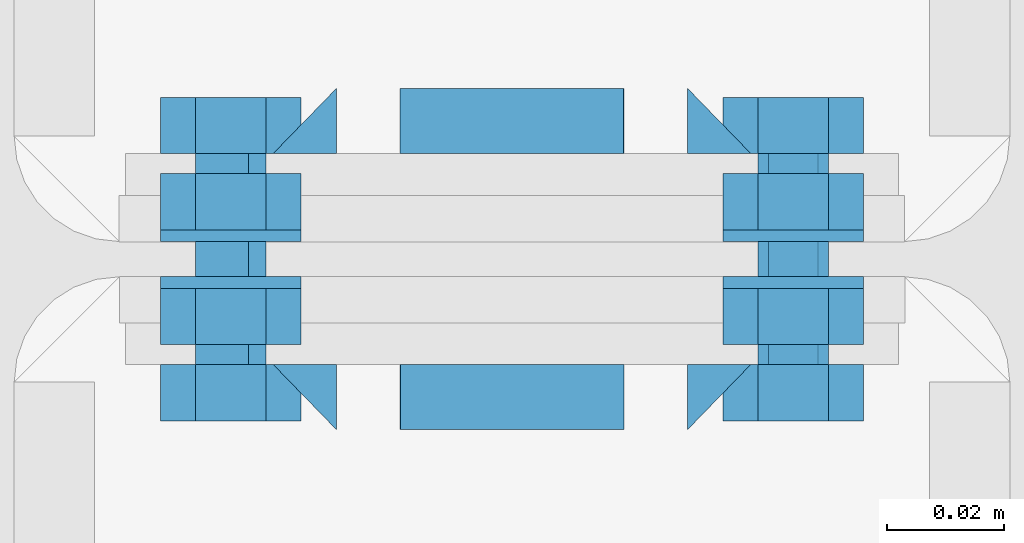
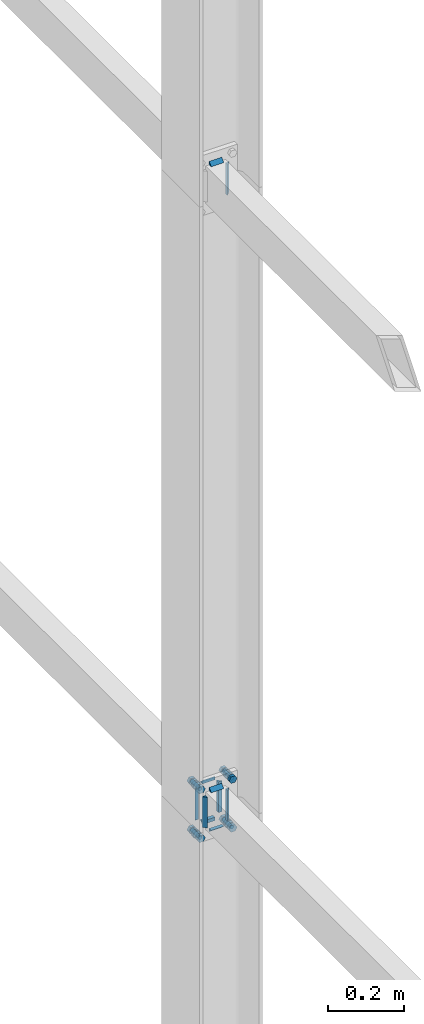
# One storey, part 163 of 251: 32 mechanical fasteners, 18 fasteners.
"""IFC4 building model written with IfcOpenShell, lengths in metres."""

from ifc_helpers import new_model, si_unit, frame, origin_with_axes, place, context, project, spatial, polyline, outline, extrude, type_object, element, save


model = new_model("IFC4")

# Units and contexts
model_context = context("Model", 3, precision=1e-05, world=origin_with_axes())
ifc_project = project(units=[si_unit("LENGTHUNIT", "METRE"), si_unit("AREAUNIT", "SQUARE_METRE"), si_unit("VOLUMEUNIT", "CUBIC_METRE"), si_unit("MASSUNIT", "GRAM", prefix="KILO"), si_unit("TIMEUNIT", "SECOND"), si_unit("PLANEANGLEUNIT", "RADIAN"), si_unit("SOLIDANGLEUNIT", "STERADIAN"), si_unit("THERMODYNAMICTEMPERATUREUNIT", "DEGREE_CELSIUS")], contexts=[model_context])

# Site, building, storey
placement_1 = place(None, origin_with_axes())
site = spatial("IfcSite", under=ifc_project, at=placement_1, Name="Italia", CompositionType="ELEMENT")
building = spatial("IfcBuilding", under=site, at=placement_1, Name="Deposito", CompositionType="ELEMENT")
storey = spatial("IfcBuildingStorey", under=building, at=placement_1, Name="Storey 0", CompositionType="ELEMENT", Elevation=0.0)

# Fasteners
fastener_type_1 = type_object("IfcFastenerType", Name="Collegamenti -001_-002 -002_-001 -002_-003 -003_-002 -003_-004 -004_-003 -004_-008 -008_-004 -009_-010 -010_-009 -010_-011 -011_-010 -011_-012 -012_-011 -012_-016 -016_-012", PredefinedType="WELD")
placement_2 = place(placement_1, origin_with_axes())
fastener_1_placement = place(placement_2, origin_with_axes())
element("IfcFastener", 1, at=fastener_1_placement, inside=storey, type_object=fastener_type_1, Name="Collegamenti -001_-002 -002_-001 -002_-003 -003_-002 -003_-004 -004_-003 -004_-008 -008_-004 -009_-010 -010_-009 -010_-011 -011_-010 -011_-012 -012_-011 -012_-016 -016_-012", context=model_context, shape_type="SweptSolid", body=[
    extrude(outline(polyline([(0.0, 0.0), (0.0111732, -0.0108382), (0.0, -0.0108382), (0.0, 0.0)])), frame((20.0191, 9.98205, 1.07079), z_axis=(-1.0, 0.0, 0.0), x_axis=(0.0, -1.0, 0.0)), (0.0, 0.0, 1.0), 0.0381012),
])
fastener_type_2 = type_object("IfcFastenerType", Name="Collegamenti -001_-002 -002_-001 -002_-003 -003_-002 -003_-004 -004_-003 -004_-008 -008_-004 -009_-010 -010_-009 -010_-011 -011_-010 -011_-012 -012_-011 -012_-016 -016_-012", PredefinedType="WELD")
fastener_2_placement = place(placement_2, origin_with_axes())
element("IfcFastener", 2, at=fastener_2_placement, inside=storey, type_object=fastener_type_2, Name="Collegamenti -001_-002 -002_-001 -002_-003 -003_-002 -003_-004 -004_-003 -004_-008 -008_-004 -009_-010 -010_-009 -010_-011 -011_-010 -011_-012 -012_-011 -012_-016 -016_-012", context=model_context, shape_type="SweptSolid", body=[
    extrude(outline(polyline([(0.0, 0.0), (-0.0111732, 0.0108376), (0.0, 0.0108376), (0.0, 0.0)])), frame((20.0408, 9.98205, 0.95095), z_axis=(0.0, 0.0, 1.0), x_axis=(0.0, 1.0, 0.0)), (0.0, 0.0, 1.0), 0.0980999),
])
fastener_type_3 = type_object("IfcFastenerType", Name="Collegamenti -001_-002 -002_-001 -002_-003 -003_-002 -003_-004 -004_-003 -004_-008 -008_-004 -009_-010 -010_-009 -010_-011 -011_-010 -011_-012 -012_-011 -012_-016 -016_-012", PredefinedType="WELD")
fastener_3_placement = place(placement_2, origin_with_axes())
element("IfcFastener", 3, at=fastener_3_placement, inside=storey, type_object=fastener_type_3, Name="Collegamenti -001_-002 -002_-001 -002_-003 -003_-002 -003_-004 -004_-003 -004_-008 -008_-004 -009_-010 -010_-009 -010_-011 -011_-010 -011_-012 -012_-011 -012_-016 -016_-012", context=model_context, shape_type="SweptSolid", body=[
    extrude(outline(polyline([(0.0, 0.0), (-0.0111732, 0.0108376), (0.0, 0.0108376), (0.0, 0.0)])), frame((19.9592, 9.98205, 1.04905), z_axis=(0.0, 0.0, -1.0), x_axis=(0.0, 1.0, 0.0)), (0.0, 0.0, 1.0), 0.0980999),
])
fastener_type_4 = type_object("IfcFastenerType", Name="Collegamenti -001_-002 -002_-001 -002_-003 -003_-002 -003_-004 -004_-003 -004_-008 -008_-004 -009_-010 -010_-009 -010_-011 -011_-010 -011_-012 -012_-011 -012_-016 -016_-012", PredefinedType="WELD")
fastener_4_placement = place(placement_2, origin_with_axes())
element("IfcFastener", 4, at=fastener_4_placement, inside=storey, type_object=fastener_type_4, Name="Collegamenti -001_-002 -002_-001 -002_-003 -003_-002 -003_-004 -004_-003 -004_-008 -008_-004 -009_-010 -010_-009 -010_-011 -011_-010 -011_-012 -012_-011 -012_-016 -016_-012", context=model_context, shape_type="SweptSolid", body=[
    extrude(outline(polyline([(0.0, 0.0), (-0.0111732, 0.0108382), (0.0, 0.0108382), (0.0, 0.0)])), frame((19.9809, 9.98205, 0.929212), z_axis=(1.0, 0.0, 0.0), x_axis=(0.0, 1.0, 0.0)), (0.0, 0.0, 1.0), 0.0381012),
])
fastener_type_5 = type_object("IfcFastenerType", Name="Collegamenti -001_-002 -002_-001 -002_-003 -003_-002 -003_-004 -004_-003 -004_-008 -008_-004 -009_-010 -010_-009 -010_-011 -011_-010 -011_-012 -012_-011 -012_-016 -016_-012", PredefinedType="WELD")
fastener_5_placement = place(placement_2, origin_with_axes())
element("IfcFastener", 5, at=fastener_5_placement, inside=storey, type_object=fastener_type_5, Name="Collegamenti -001_-002 -002_-001 -002_-003 -003_-002 -003_-004 -004_-003 -004_-008 -008_-004 -009_-010 -010_-009 -010_-011 -011_-010 -011_-012 -012_-011 -012_-016 -016_-012", context=model_context, shape_type="SweptSolid", body=[
    extrude(outline(polyline([(0.0, 0.0), (0.0111732, -0.0108382), (0.0, -0.0108382), (0.0, 0.0)])), frame((20.0191, 9.98205, 1.07079), z_axis=(-1.0, 0.0, 0.0), x_axis=(0.0, -1.0, 0.0)), (0.0, 0.0, 1.0), 0.0381012),
])
fastener_type_6 = type_object("IfcFastenerType", Name="Collegamenti -001_-002 -002_-001 -002_-003 -003_-002 -003_-004 -004_-003 -004_-008 -008_-004 -009_-010 -010_-009 -010_-011 -011_-010 -011_-012 -012_-011 -012_-016 -016_-012", PredefinedType="WELD")
fastener_6_placement = place(placement_2, origin_with_axes())
element("IfcFastener", 6, at=fastener_6_placement, inside=storey, type_object=fastener_type_6, Name="Collegamenti -001_-002 -002_-001 -002_-003 -003_-002 -003_-004 -004_-003 -004_-008 -008_-004 -009_-010 -010_-009 -010_-011 -011_-010 -011_-012 -012_-011 -012_-016 -016_-012", context=model_context, shape_type="SweptSolid", body=[
    extrude(outline(polyline([(0.0, 0.0), (-0.0111732, 0.0108376), (0.0, 0.0108376), (0.0, 0.0)])), frame((20.0408, 9.98205, 0.95095), z_axis=(0.0, 0.0, 1.0), x_axis=(0.0, 1.0, 0.0)), (0.0, 0.0, 1.0), 0.0980999),
])
fastener_type_7 = type_object("IfcFastenerType", Name="Collegamenti -001_-002 -002_-001 -002_-003 -003_-002 -003_-004 -004_-003 -004_-008 -008_-004 -009_-010 -010_-009 -010_-011 -011_-010 -011_-012 -012_-011 -012_-016 -016_-012", PredefinedType="WELD")
fastener_7_placement = place(placement_2, origin_with_axes())
element("IfcFastener", 7, at=fastener_7_placement, inside=storey, type_object=fastener_type_7, Name="Collegamenti -001_-002 -002_-001 -002_-003 -003_-002 -003_-004 -004_-003 -004_-008 -008_-004 -009_-010 -010_-009 -010_-011 -011_-010 -011_-012 -012_-011 -012_-016 -016_-012", context=model_context, shape_type="SweptSolid", body=[
    extrude(outline(polyline([(0.0, 0.0), (-0.0111732, 0.0108376), (0.0, 0.0108376), (0.0, 0.0)])), frame((19.9592, 9.98205, 1.04905), z_axis=(0.0, 0.0, -1.0), x_axis=(0.0, 1.0, 0.0)), (0.0, 0.0, 1.0), 0.0980999),
])
fastener_type_8 = type_object("IfcFastenerType", Name="Collegamenti -001_-002 -002_-001 -002_-003 -003_-002 -003_-004 -004_-003 -004_-008 -008_-004 -009_-010 -010_-009 -010_-011 -011_-010 -011_-012 -012_-011 -012_-016 -016_-012", PredefinedType="WELD")
fastener_8_placement = place(placement_2, origin_with_axes())
element("IfcFastener", 8, at=fastener_8_placement, inside=storey, type_object=fastener_type_8, Name="Collegamenti -001_-002 -002_-001 -002_-003 -003_-002 -003_-004 -004_-003 -004_-008 -008_-004 -009_-010 -010_-009 -010_-011 -011_-010 -011_-012 -012_-011 -012_-016 -016_-012", context=model_context, shape_type="SweptSolid", body=[
    extrude(outline(polyline([(0.0, 0.0), (-0.0111732, 0.0108382), (0.0, 0.0108382), (0.0, 0.0)])), frame((19.9809, 9.98205, 0.929212), z_axis=(1.0, 0.0, 0.0), x_axis=(0.0, 1.0, 0.0)), (0.0, 0.0, 1.0), 0.0381012),
])

# Mechanical fasteners
mechanical_fastener_type_1 = type_object("IfcMechanicalFastenerType", Name="Collegamenti -001_-002 -002_-001 -002_-003 -003_-002 -003_-004 -004_-003 -004_-008 -008_-004 -009_-010 -010_-009 -010_-011 -011_-010 -011_-012 -012_-011 -012_-016 -016_-012", PredefinedType="BOLT")
mechanical_fastener_1_placement = place(placement_2, origin_with_axes())
element("IfcMechanicalFastener", 9, at=mechanical_fastener_1_placement, inside=storey, type_object=mechanical_fastener_type_1, Name="Collegamenti -001_-002 -002_-001 -002_-003 -003_-002 -003_-004 -004_-003 -004_-008 -008_-004 -009_-010 -010_-009 -010_-011 -011_-010 -011_-012 -012_-011 -012_-016 -016_-012", NominalDiameter=0.0119993, context=model_context, shape_type="SweptSolid", body=[
    extrude(outline(polyline([(0.0, 0.0), (-0.012001, 0.0), (-0.0179996, 0.0103923), (-0.012001, 0.0207846), (0.0, 0.0207846), (0.00600052, 0.0103923), (0.0, 0.0)])), frame((19.958, 9.982, 0.911608), z_axis=(0.0, -1.0, 0.0), x_axis=(1.0, 0.0, 0.0)), (0.0, 0.0, 1.0), 0.00960064),
])
mechanical_fastener_type_2 = type_object("IfcMechanicalFastenerType", Name="Collegamenti -001_-002 -002_-001 -002_-003 -003_-002 -003_-004 -004_-003 -004_-008 -008_-004 -009_-010 -010_-009 -010_-011 -011_-010 -011_-012 -012_-011 -012_-016 -016_-012", PredefinedType="BOLT")
mechanical_fastener_2_placement = place(placement_2, origin_with_axes())
element("IfcMechanicalFastener", 10, at=mechanical_fastener_2_placement, inside=storey, type_object=mechanical_fastener_type_2, Name="Collegamenti -001_-002 -002_-001 -002_-003 -003_-002 -003_-004 -004_-003 -004_-008 -008_-004 -009_-010 -010_-009 -010_-011 -011_-010 -011_-012 -012_-011 -012_-016 -016_-012", NominalDiameter=0.012, context=model_context, shape_type="SweptSolid", body=[
    extrude(outline(polyline([(0.0, 0.0), (-0.000204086, -0.00155294), (-0.000804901, -0.00300002), (-0.00175858, -0.00424266), (-0.00300026, -0.00519615), (-0.00444794, -0.00579554), (-0.00600052, -0.00599998), (-0.0075531, -0.00579554), (-0.00900078, -0.00519615), (-0.0102425, -0.00424266), (-0.0111961, -0.00300002), (-0.011797, -0.00155294), (-0.012001, 0.0), (-0.011797, 0.00155294), (-0.0111961, 0.00300002), (-0.0102425, 0.00424266), (-0.00900078, 0.00519615), (-0.0075531, 0.00579554), (-0.00600052, 0.00599998), (-0.00444794, 0.00579554), (-0.00300026, 0.00519615), (-0.00175858, 0.00424266), (-0.000804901, 0.00300002), (-0.000204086, 0.00155294), (0.0, 0.0)])), frame((19.958, 10.021, 0.922), z_axis=(0.0, -1.0, 0.0), x_axis=(1.0, 0.0, 0.0)), (0.0, 0.0, 1.0), 0.0389996),
])
mechanical_fastener_type_3 = type_object("IfcMechanicalFastenerType", Name="Collegamenti -001_-002 -002_-001 -002_-003 -003_-002 -003_-004 -004_-003 -004_-008 -008_-004 -009_-010 -010_-009 -010_-011 -011_-010 -011_-012 -012_-011 -012_-016 -016_-012", PredefinedType="BOLT")
mechanical_fastener_3_placement = place(placement_2, origin_with_axes())
element("IfcMechanicalFastener", 11, at=mechanical_fastener_3_placement, inside=storey, type_object=mechanical_fastener_type_3, Name="Collegamenti -001_-002 -002_-001 -002_-003 -003_-002 -003_-004 -004_-003 -004_-008 -008_-004 -009_-010 -010_-009 -010_-011 -011_-010 -011_-012 -012_-011 -012_-016 -016_-012", NominalDiameter=0.0119993, context=model_context, shape_type="SweptSolid", body=[
    extrude(outline(polyline([(0.0, 0.0), (-0.012001, 0.0), (-0.0179996, 0.0103923), (-0.012001, 0.0207846), (0.0, 0.0207846), (0.00600052, 0.0103923), (0.0, 0.0)])), frame((19.958, 10.0146, 0.911608), z_axis=(0.0, -1.0, 0.0), x_axis=(1.0, 0.0, 0.0)), (0.0, 0.0, 1.0), 0.00959969),
])
mechanical_fastener_type_4 = type_object("IfcMechanicalFastenerType", Name="Collegamenti -001_-002 -002_-001 -002_-003 -003_-002 -003_-004 -004_-003 -004_-008 -008_-004 -009_-010 -010_-009 -010_-011 -011_-010 -011_-012 -012_-011 -012_-016 -016_-012", PredefinedType="BOLT")
mechanical_fastener_4_placement = place(placement_2, origin_with_axes())
element("IfcMechanicalFastener", 12, at=mechanical_fastener_4_placement, inside=storey, type_object=mechanical_fastener_type_4, Name="Collegamenti -001_-002 -002_-001 -002_-003 -003_-002 -003_-004 -004_-003 -004_-008 -008_-004 -009_-010 -010_-009 -010_-011 -011_-010 -011_-012 -012_-011 -012_-016 -016_-012", NominalDiameter=0.024, context=model_context, shape_type="SweptSolid", body=[
    extrude(outline(polyline([(0.0, 0.0), (-0.000408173, -0.00310582), (-0.00160599, -0.00599998), (-0.00351334, -0.00848526), (-0.00599861, -0.0103923), (-0.00889397, -0.0115911), (-0.0119991, -0.012), (-0.0151043, -0.0115911), (-0.0179996, -0.0103923), (-0.0204849, -0.00848526), (-0.0223923, -0.00599998), (-0.0235901, -0.00310582), (-0.0239983, 0.0), (-0.0235901, 0.00310582), (-0.0223923, 0.00599998), (-0.0204849, 0.00848526), (-0.0179996, 0.0103923), (-0.0151043, 0.0115911), (-0.0119991, 0.012), (-0.00889397, 0.0115911), (-0.00599861, 0.0103923), (-0.00351334, 0.00848526), (-0.00160599, 0.00599998), (-0.000408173, 0.00310582), (0.0, 0.0)])), frame((19.964, 10.005, 0.922), z_axis=(0.0, -1.0, 0.0), x_axis=(1.0, 0.0, 0.0)), (0.0, 0.0, 1.0), 0.00199986),
])
mechanical_fastener_type_5 = type_object("IfcMechanicalFastenerType", Name="Collegamenti -001_-002 -002_-001 -002_-003 -003_-002 -003_-004 -004_-003 -004_-008 -008_-004 -009_-010 -010_-009 -010_-011 -011_-010 -011_-012 -012_-011 -012_-016 -016_-012", PredefinedType="BOLT")
mechanical_fastener_5_placement = place(placement_2, origin_with_axes())
element("IfcMechanicalFastener", 13, at=mechanical_fastener_5_placement, inside=storey, type_object=mechanical_fastener_type_5, Name="Collegamenti -001_-002 -002_-001 -002_-003 -003_-002 -003_-004 -004_-003 -004_-008 -008_-004 -009_-010 -010_-009 -010_-011 -011_-010 -011_-012 -012_-011 -012_-016 -016_-012", NominalDiameter=0.0119993, context=model_context, shape_type="SweptSolid", body=[
    extrude(outline(polyline([(0.0, 0.0), (-0.012001, 0.0), (-0.0180016, 0.0103923), (-0.012001, 0.0207846), (0.0, 0.0207846), (0.00599861, 0.0103923), (0.0, 0.0)])), frame((20.054, 9.982, 0.911608), z_axis=(0.0, -1.0, 0.0), x_axis=(1.0, 0.0, 0.0)), (0.0, 0.0, 1.0), 0.00960064),
])
mechanical_fastener_type_6 = type_object("IfcMechanicalFastenerType", Name="Collegamenti -001_-002 -002_-001 -002_-003 -003_-002 -003_-004 -004_-003 -004_-008 -008_-004 -009_-010 -010_-009 -010_-011 -011_-010 -011_-012 -012_-011 -012_-016 -016_-012", PredefinedType="BOLT")
mechanical_fastener_6_placement = place(placement_2, origin_with_axes())
element("IfcMechanicalFastener", 14, at=mechanical_fastener_6_placement, inside=storey, type_object=mechanical_fastener_type_6, Name="Collegamenti -001_-002 -002_-001 -002_-003 -003_-002 -003_-004 -004_-003 -004_-008 -008_-004 -009_-010 -010_-009 -010_-011 -011_-010 -011_-012 -012_-011 -012_-016 -016_-012", NominalDiameter=0.012, context=model_context, shape_type="SweptSolid", body=[
    extrude(outline(polyline([(0.0, 0.0), (-0.000204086, -0.00155294), (-0.000804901, -0.00300002), (-0.00175858, -0.00424266), (-0.00300026, -0.00519615), (-0.00444794, -0.00579554), (-0.00600052, -0.00599998), (-0.0075531, -0.00579554), (-0.00900078, -0.00519615), (-0.0102425, -0.00424266), (-0.0111961, -0.00300002), (-0.011797, -0.00155294), (-0.012001, 0.0), (-0.011797, 0.00155294), (-0.0111961, 0.00300002), (-0.0102425, 0.00424266), (-0.00900078, 0.00519615), (-0.0075531, 0.00579554), (-0.00600052, 0.00599998), (-0.00444794, 0.00579554), (-0.00300026, 0.00519615), (-0.00175858, 0.00424266), (-0.000804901, 0.00300002), (-0.000204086, 0.00155294), (0.0, 0.0)])), frame((20.054, 10.021, 0.922), z_axis=(0.0, -1.0, 0.0), x_axis=(1.0, 0.0, 0.0)), (0.0, 0.0, 1.0), 0.0389996),
])
mechanical_fastener_type_7 = type_object("IfcMechanicalFastenerType", Name="Collegamenti -001_-002 -002_-001 -002_-003 -003_-002 -003_-004 -004_-003 -004_-008 -008_-004 -009_-010 -010_-009 -010_-011 -011_-010 -011_-012 -012_-011 -012_-016 -016_-012", PredefinedType="BOLT")
mechanical_fastener_7_placement = place(placement_2, origin_with_axes())
element("IfcMechanicalFastener", 15, at=mechanical_fastener_7_placement, inside=storey, type_object=mechanical_fastener_type_7, Name="Collegamenti -001_-002 -002_-001 -002_-003 -003_-002 -003_-004 -004_-003 -004_-008 -008_-004 -009_-010 -010_-009 -010_-011 -011_-010 -011_-012 -012_-011 -012_-016 -016_-012", NominalDiameter=0.0119993, context=model_context, shape_type="SweptSolid", body=[
    extrude(outline(polyline([(0.0, 0.0), (-0.012001, 0.0), (-0.0180016, 0.0103923), (-0.012001, 0.0207846), (0.0, 0.0207846), (0.00599861, 0.0103923), (0.0, 0.0)])), frame((20.054, 10.0146, 0.911608), z_axis=(0.0, -1.0, 0.0), x_axis=(1.0, 0.0, 0.0)), (0.0, 0.0, 1.0), 0.00959969),
])
mechanical_fastener_type_8 = type_object("IfcMechanicalFastenerType", Name="Collegamenti -001_-002 -002_-001 -002_-003 -003_-002 -003_-004 -004_-003 -004_-008 -008_-004 -009_-010 -010_-009 -010_-011 -011_-010 -011_-012 -012_-011 -012_-016 -016_-012", PredefinedType="BOLT")
mechanical_fastener_8_placement = place(placement_2, origin_with_axes())
element("IfcMechanicalFastener", 16, at=mechanical_fastener_8_placement, inside=storey, type_object=mechanical_fastener_type_8, Name="Collegamenti -001_-002 -002_-001 -002_-003 -003_-002 -003_-004 -004_-003 -004_-008 -008_-004 -009_-010 -010_-009 -010_-011 -011_-010 -011_-012 -012_-011 -012_-016 -016_-012", NominalDiameter=0.024, context=model_context, shape_type="SweptSolid", body=[
    extrude(outline(polyline([(0.0, 0.0), (-0.000408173, -0.00310582), (-0.00160599, -0.00599998), (-0.00351334, -0.00848526), (-0.00599861, -0.0103923), (-0.00889397, -0.0115911), (-0.0119991, -0.012), (-0.0151043, -0.0115911), (-0.0179996, -0.0103923), (-0.0204849, -0.00848526), (-0.0223923, -0.00599998), (-0.0235901, -0.00310582), (-0.0239983, 0.0), (-0.0235901, 0.00310582), (-0.0223923, 0.00599998), (-0.0204849, 0.00848526), (-0.0179996, 0.0103923), (-0.0151043, 0.0115911), (-0.0119991, 0.012), (-0.00889397, 0.0115911), (-0.00599861, 0.0103923), (-0.00351334, 0.00848526), (-0.00160599, 0.00599998), (-0.000408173, 0.00310582), (0.0, 0.0)])), frame((20.06, 10.005, 0.922), z_axis=(0.0, -1.0, 0.0), x_axis=(1.0, 0.0, 0.0)), (0.0, 0.0, 1.0), 0.00199986),
])
mechanical_fastener_type_9 = type_object("IfcMechanicalFastenerType", Name="Collegamenti -001_-002 -002_-001 -002_-003 -003_-002 -003_-004 -004_-003 -004_-008 -008_-004 -009_-010 -010_-009 -010_-011 -011_-010 -011_-012 -012_-011 -012_-016 -016_-012", PredefinedType="BOLT")
mechanical_fastener_9_placement = place(placement_2, origin_with_axes())
element("IfcMechanicalFastener", 17, at=mechanical_fastener_9_placement, inside=storey, type_object=mechanical_fastener_type_9, Name="Collegamenti -001_-002 -002_-001 -002_-003 -003_-002 -003_-004 -004_-003 -004_-008 -008_-004 -009_-010 -010_-009 -010_-011 -011_-010 -011_-012 -012_-011 -012_-016 -016_-012", NominalDiameter=0.0119993, context=model_context, shape_type="SweptSolid", body=[
    extrude(outline(polyline([(0.0, 0.0), (-0.012001, 0.0), (-0.0179996, 0.0103923), (-0.012001, 0.0207846), (0.0, 0.0207846), (0.00600052, 0.0103923), (0.0, 0.0)])), frame((19.958, 9.982, 1.06761), z_axis=(0.0, -1.0, 0.0), x_axis=(1.0, 0.0, 0.0)), (0.0, 0.0, 1.0), 0.00960064),
])
mechanical_fastener_type_10 = type_object("IfcMechanicalFastenerType", Name="Collegamenti -001_-002 -002_-001 -002_-003 -003_-002 -003_-004 -004_-003 -004_-008 -008_-004 -009_-010 -010_-009 -010_-011 -011_-010 -011_-012 -012_-011 -012_-016 -016_-012", PredefinedType="BOLT")
mechanical_fastener_10_placement = place(placement_2, origin_with_axes())
element("IfcMechanicalFastener", 18, at=mechanical_fastener_10_placement, inside=storey, type_object=mechanical_fastener_type_10, Name="Collegamenti -001_-002 -002_-001 -002_-003 -003_-002 -003_-004 -004_-003 -004_-008 -008_-004 -009_-010 -010_-009 -010_-011 -011_-010 -011_-012 -012_-011 -012_-016 -016_-012", NominalDiameter=0.012, context=model_context, shape_type="SweptSolid", body=[
    extrude(outline(polyline([(0.0, 0.0), (-0.000204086, -0.00155294), (-0.000804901, -0.00300002), (-0.00175858, -0.00424266), (-0.00300026, -0.00519609), (-0.00444794, -0.0057956), (-0.00600052, -0.00600004), (-0.0075531, -0.0057956), (-0.00900078, -0.00519609), (-0.0102425, -0.00424266), (-0.0111961, -0.00300002), (-0.011797, -0.00155294), (-0.012001, 0.0), (-0.011797, 0.00155294), (-0.0111961, 0.00300002), (-0.0102425, 0.00424266), (-0.00900078, 0.00519609), (-0.0075531, 0.0057956), (-0.00600052, 0.00600004), (-0.00444794, 0.0057956), (-0.00300026, 0.00519609), (-0.00175858, 0.00424266), (-0.000804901, 0.00300002), (-0.000204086, 0.00155294), (0.0, 0.0)])), frame((19.958, 10.021, 1.078), z_axis=(0.0, -1.0, 0.0), x_axis=(1.0, 0.0, 0.0)), (0.0, 0.0, 1.0), 0.0389996),
])
mechanical_fastener_type_11 = type_object("IfcMechanicalFastenerType", Name="Collegamenti -001_-002 -002_-001 -002_-003 -003_-002 -003_-004 -004_-003 -004_-008 -008_-004 -009_-010 -010_-009 -010_-011 -011_-010 -011_-012 -012_-011 -012_-016 -016_-012", PredefinedType="BOLT")
mechanical_fastener_11_placement = place(placement_2, origin_with_axes())
element("IfcMechanicalFastener", 19, at=mechanical_fastener_11_placement, inside=storey, type_object=mechanical_fastener_type_11, Name="Collegamenti -001_-002 -002_-001 -002_-003 -003_-002 -003_-004 -004_-003 -004_-008 -008_-004 -009_-010 -010_-009 -010_-011 -011_-010 -011_-012 -012_-011 -012_-016 -016_-012", NominalDiameter=0.0119993, context=model_context, shape_type="SweptSolid", body=[
    extrude(outline(polyline([(0.0, 0.0), (-0.012001, 0.0), (-0.0179996, 0.0103923), (-0.012001, 0.0207846), (0.0, 0.0207846), (0.00600052, 0.0103923), (0.0, 0.0)])), frame((19.958, 10.0146, 1.06761), z_axis=(0.0, -1.0, 0.0), x_axis=(1.0, 0.0, 0.0)), (0.0, 0.0, 1.0), 0.00959969),
])
mechanical_fastener_type_12 = type_object("IfcMechanicalFastenerType", Name="Collegamenti -001_-002 -002_-001 -002_-003 -003_-002 -003_-004 -004_-003 -004_-008 -008_-004 -009_-010 -010_-009 -010_-011 -011_-010 -011_-012 -012_-011 -012_-016 -016_-012", PredefinedType="BOLT")
mechanical_fastener_12_placement = place(placement_2, origin_with_axes())
element("IfcMechanicalFastener", 20, at=mechanical_fastener_12_placement, inside=storey, type_object=mechanical_fastener_type_12, Name="Collegamenti -001_-002 -002_-001 -002_-003 -003_-002 -003_-004 -004_-003 -004_-008 -008_-004 -009_-010 -010_-009 -010_-011 -011_-010 -011_-012 -012_-011 -012_-016 -016_-012", NominalDiameter=0.024, context=model_context, shape_type="SweptSolid", body=[
    extrude(outline(polyline([(0.0, 0.0), (-0.000408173, -0.00310588), (-0.00160599, -0.00600004), (-0.00351334, -0.00848532), (-0.00599861, -0.0103923), (-0.00889397, -0.0115911), (-0.0119991, -0.012), (-0.0151043, -0.0115911), (-0.0179996, -0.0103923), (-0.0204849, -0.00848532), (-0.0223923, -0.00600004), (-0.0235901, -0.00310588), (-0.0239983, 0.0), (-0.0235901, 0.00310588), (-0.0223923, 0.00600004), (-0.0204849, 0.00848532), (-0.0179996, 0.0103923), (-0.0151043, 0.0115911), (-0.0119991, 0.012), (-0.00889397, 0.0115911), (-0.00599861, 0.0103923), (-0.00351334, 0.00848532), (-0.00160599, 0.00600004), (-0.000408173, 0.00310588), (0.0, 0.0)])), frame((19.964, 10.005, 1.078), z_axis=(0.0, -1.0, 0.0), x_axis=(1.0, 0.0, 0.0)), (0.0, 0.0, 1.0), 0.00199986),
])
mechanical_fastener_type_13 = type_object("IfcMechanicalFastenerType", Name="Collegamenti -001_-002 -002_-001 -002_-003 -003_-002 -003_-004 -004_-003 -004_-008 -008_-004 -009_-010 -010_-009 -010_-011 -011_-010 -011_-012 -012_-011 -012_-016 -016_-012", PredefinedType="BOLT")
mechanical_fastener_13_placement = place(placement_2, origin_with_axes())
element("IfcMechanicalFastener", 21, at=mechanical_fastener_13_placement, inside=storey, type_object=mechanical_fastener_type_13, Name="Collegamenti -001_-002 -002_-001 -002_-003 -003_-002 -003_-004 -004_-003 -004_-008 -008_-004 -009_-010 -010_-009 -010_-011 -011_-010 -011_-012 -012_-011 -012_-016 -016_-012", NominalDiameter=0.0119993, context=model_context, shape_type="SweptSolid", body=[
    extrude(outline(polyline([(0.0, 0.0), (-0.012001, 0.0), (-0.0180016, 0.0103923), (-0.012001, 0.0207846), (0.0, 0.0207846), (0.00599861, 0.0103923), (0.0, 0.0)])), frame((20.054, 9.982, 1.06761), z_axis=(0.0, -1.0, 0.0), x_axis=(1.0, 0.0, 0.0)), (0.0, 0.0, 1.0), 0.00960064),
])
mechanical_fastener_type_14 = type_object("IfcMechanicalFastenerType", Name="Collegamenti -001_-002 -002_-001 -002_-003 -003_-002 -003_-004 -004_-003 -004_-008 -008_-004 -009_-010 -010_-009 -010_-011 -011_-010 -011_-012 -012_-011 -012_-016 -016_-012", PredefinedType="BOLT")
mechanical_fastener_14_placement = place(placement_2, origin_with_axes())
element("IfcMechanicalFastener", 22, at=mechanical_fastener_14_placement, inside=storey, type_object=mechanical_fastener_type_14, Name="Collegamenti -001_-002 -002_-001 -002_-003 -003_-002 -003_-004 -004_-003 -004_-008 -008_-004 -009_-010 -010_-009 -010_-011 -011_-010 -011_-012 -012_-011 -012_-016 -016_-012", NominalDiameter=0.012, context=model_context, shape_type="SweptSolid", body=[
    extrude(outline(polyline([(0.0, 0.0), (-0.000204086, -0.00155294), (-0.000804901, -0.00300002), (-0.00175858, -0.00424266), (-0.00300026, -0.00519609), (-0.00444794, -0.0057956), (-0.00600052, -0.00600004), (-0.0075531, -0.0057956), (-0.00900078, -0.00519609), (-0.0102425, -0.00424266), (-0.0111961, -0.00300002), (-0.011797, -0.00155294), (-0.012001, 0.0), (-0.011797, 0.00155294), (-0.0111961, 0.00300002), (-0.0102425, 0.00424266), (-0.00900078, 0.00519609), (-0.0075531, 0.0057956), (-0.00600052, 0.00600004), (-0.00444794, 0.0057956), (-0.00300026, 0.00519609), (-0.00175858, 0.00424266), (-0.000804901, 0.00300002), (-0.000204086, 0.00155294), (0.0, 0.0)])), frame((20.054, 10.021, 1.078), z_axis=(0.0, -1.0, 0.0), x_axis=(1.0, 0.0, 0.0)), (0.0, 0.0, 1.0), 0.0389996),
])
mechanical_fastener_type_15 = type_object("IfcMechanicalFastenerType", Name="Collegamenti -001_-002 -002_-001 -002_-003 -003_-002 -003_-004 -004_-003 -004_-008 -008_-004 -009_-010 -010_-009 -010_-011 -011_-010 -011_-012 -012_-011 -012_-016 -016_-012", PredefinedType="BOLT")
mechanical_fastener_15_placement = place(placement_2, origin_with_axes())
element("IfcMechanicalFastener", 23, at=mechanical_fastener_15_placement, inside=storey, type_object=mechanical_fastener_type_15, Name="Collegamenti -001_-002 -002_-001 -002_-003 -003_-002 -003_-004 -004_-003 -004_-008 -008_-004 -009_-010 -010_-009 -010_-011 -011_-010 -011_-012 -012_-011 -012_-016 -016_-012", NominalDiameter=0.0119993, context=model_context, shape_type="SweptSolid", body=[
    extrude(outline(polyline([(0.0, 0.0), (-0.012001, 0.0), (-0.0180016, 0.0103923), (-0.012001, 0.0207846), (0.0, 0.0207846), (0.00599861, 0.0103923), (0.0, 0.0)])), frame((20.054, 10.0146, 1.06761), z_axis=(0.0, -1.0, 0.0), x_axis=(1.0, 0.0, 0.0)), (0.0, 0.0, 1.0), 0.00959969),
])
mechanical_fastener_type_16 = type_object("IfcMechanicalFastenerType", Name="Collegamenti -001_-002 -002_-001 -002_-003 -003_-002 -003_-004 -004_-003 -004_-008 -008_-004 -009_-010 -010_-009 -010_-011 -011_-010 -011_-012 -012_-011 -012_-016 -016_-012", PredefinedType="BOLT")
mechanical_fastener_16_placement = place(placement_2, origin_with_axes())
element("IfcMechanicalFastener", 24, at=mechanical_fastener_16_placement, inside=storey, type_object=mechanical_fastener_type_16, Name="Collegamenti -001_-002 -002_-001 -002_-003 -003_-002 -003_-004 -004_-003 -004_-008 -008_-004 -009_-010 -010_-009 -010_-011 -011_-010 -011_-012 -012_-011 -012_-016 -016_-012", NominalDiameter=0.024, context=model_context, shape_type="SweptSolid", body=[
    extrude(outline(polyline([(0.0, 0.0), (-0.000408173, -0.00310588), (-0.00160599, -0.00600004), (-0.00351334, -0.00848532), (-0.00599861, -0.0103923), (-0.00889397, -0.0115911), (-0.0119991, -0.012), (-0.0151043, -0.0115911), (-0.0179996, -0.0103923), (-0.0204849, -0.00848532), (-0.0223923, -0.00600004), (-0.0235901, -0.00310588), (-0.0239983, 0.0), (-0.0235901, 0.00310588), (-0.0223923, 0.00600004), (-0.0204849, 0.00848532), (-0.0179996, 0.0103923), (-0.0151043, 0.0115911), (-0.0119991, 0.012), (-0.00889397, 0.0115911), (-0.00599861, 0.0103923), (-0.00351334, 0.00848532), (-0.00160599, 0.00600004), (-0.000408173, 0.00310588), (0.0, 0.0)])), frame((20.06, 10.005, 1.078), z_axis=(0.0, -1.0, 0.0), x_axis=(1.0, 0.0, 0.0)), (0.0, 0.0, 1.0), 0.00199986),
])

# Fasteners
fastener_type_9 = type_object("IfcFastenerType", Name="Collegamenti -001_-002 -002_-001 -002_-003 -003_-002 -003_-004 -004_-003 -004_-008 -008_-004 -009_-010 -010_-009 -010_-011 -011_-010 -011_-012 -012_-011 -012_-016 -016_-012", PredefinedType="WELD")
fastener_9_placement = place(placement_2, origin_with_axes())
element("IfcFastener", 25, at=fastener_9_placement, inside=storey, type_object=fastener_type_9, Name="Collegamenti -001_-002 -002_-001 -002_-003 -003_-002 -003_-004 -004_-003 -004_-008 -008_-004 -009_-010 -010_-009 -010_-011 -011_-010 -011_-012 -012_-011 -012_-016 -016_-012", context=model_context, shape_type="SweptSolid", body=[
    extrude(outline(polyline([(0.0, 0.0), (0.0111732, -0.0108382), (0.0, -0.0108382), (0.0, 0.0)])), frame((19.9809, 10.018, 1.07079), z_axis=(1.0, 0.0, 0.0), x_axis=(0.0, 1.0, 0.0)), (0.0, 0.0, 1.0), 0.0381012),
])
fastener_type_10 = type_object("IfcFastenerType", Name="Collegamenti -001_-002 -002_-001 -002_-003 -003_-002 -003_-004 -004_-003 -004_-008 -008_-004 -009_-010 -010_-009 -010_-011 -011_-010 -011_-012 -012_-011 -012_-016 -016_-012", PredefinedType="WELD")
fastener_10_placement = place(placement_2, origin_with_axes())
element("IfcFastener", 26, at=fastener_10_placement, inside=storey, type_object=fastener_type_10, Name="Collegamenti -001_-002 -002_-001 -002_-003 -003_-002 -003_-004 -004_-003 -004_-008 -008_-004 -009_-010 -010_-009 -010_-011 -011_-010 -011_-012 -012_-011 -012_-016 -016_-012", context=model_context, shape_type="SweptSolid", body=[
    extrude(outline(polyline([(0.0, 0.0), (0.0111732, -0.0108376), (0.0, -0.0108376), (0.0, 0.0)])), frame((19.9592, 10.018, 0.95095), z_axis=(0.0, 0.0, 1.0), x_axis=(0.0, 1.0, 0.0)), (0.0, 0.0, 1.0), 0.0980999),
])
fastener_type_11 = type_object("IfcFastenerType", Name="Collegamenti -001_-002 -002_-001 -002_-003 -003_-002 -003_-004 -004_-003 -004_-008 -008_-004 -009_-010 -010_-009 -010_-011 -011_-010 -011_-012 -012_-011 -012_-016 -016_-012", PredefinedType="WELD")
fastener_11_placement = place(placement_2, origin_with_axes())
element("IfcFastener", 27, at=fastener_11_placement, inside=storey, type_object=fastener_type_11, Name="Collegamenti -001_-002 -002_-001 -002_-003 -003_-002 -003_-004 -004_-003 -004_-008 -008_-004 -009_-010 -010_-009 -010_-011 -011_-010 -011_-012 -012_-011 -012_-016 -016_-012", context=model_context, shape_type="SweptSolid", body=[
    extrude(outline(polyline([(0.0, 0.0), (0.0111732, -0.0108376), (0.0, -0.0108376), (0.0, 0.0)])), frame((20.0408, 10.018, 1.04905), z_axis=(0.0, 0.0, -1.0), x_axis=(0.0, 1.0, 0.0)), (0.0, 0.0, 1.0), 0.0980999),
])
fastener_type_12 = type_object("IfcFastenerType", Name="Collegamenti -001_-002 -002_-001 -002_-003 -003_-002 -003_-004 -004_-003 -004_-008 -008_-004 -009_-010 -010_-009 -010_-011 -011_-010 -011_-012 -012_-011 -012_-016 -016_-012", PredefinedType="WELD")
fastener_12_placement = place(placement_2, origin_with_axes())
element("IfcFastener", 28, at=fastener_12_placement, inside=storey, type_object=fastener_type_12, Name="Collegamenti -001_-002 -002_-001 -002_-003 -003_-002 -003_-004 -004_-003 -004_-008 -008_-004 -009_-010 -010_-009 -010_-011 -011_-010 -011_-012 -012_-011 -012_-016 -016_-012", context=model_context, shape_type="SweptSolid", body=[
    extrude(outline(polyline([(0.0, 0.0), (-0.0111732, 0.0108382), (0.0, 0.0108382), (0.0, 0.0)])), frame((20.0191, 10.018, 0.929212), z_axis=(-1.0, 0.0, 0.0), x_axis=(0.0, -1.0, 0.0)), (0.0, 0.0, 1.0), 0.0381012),
])
fastener_type_13 = type_object("IfcFastenerType", Name="Collegamenti -001_-002 -002_-001 -002_-003 -003_-002 -003_-004 -004_-003 -004_-008 -008_-004 -009_-010 -010_-009 -010_-011 -011_-010 -011_-012 -012_-011 -012_-016 -016_-012", PredefinedType="WELD")
fastener_13_placement = place(placement_2, origin_with_axes())
element("IfcFastener", 29, at=fastener_13_placement, inside=storey, type_object=fastener_type_13, Name="Collegamenti -001_-002 -002_-001 -002_-003 -003_-002 -003_-004 -004_-003 -004_-008 -008_-004 -009_-010 -010_-009 -010_-011 -011_-010 -011_-012 -012_-011 -012_-016 -016_-012", context=model_context, shape_type="SweptSolid", body=[
    extrude(outline(polyline([(0.0, 0.0), (0.0111732, -0.0108382), (0.0, -0.0108382), (0.0, 0.0)])), frame((19.9809, 10.018, 1.07079), z_axis=(1.0, 0.0, 0.0), x_axis=(0.0, 1.0, 0.0)), (0.0, 0.0, 1.0), 0.0381012),
])
fastener_type_14 = type_object("IfcFastenerType", Name="Collegamenti -001_-002 -002_-001 -002_-003 -003_-002 -003_-004 -004_-003 -004_-008 -008_-004 -009_-010 -010_-009 -010_-011 -011_-010 -011_-012 -012_-011 -012_-016 -016_-012", PredefinedType="WELD")
fastener_14_placement = place(placement_2, origin_with_axes())
element("IfcFastener", 30, at=fastener_14_placement, inside=storey, type_object=fastener_type_14, Name="Collegamenti -001_-002 -002_-001 -002_-003 -003_-002 -003_-004 -004_-003 -004_-008 -008_-004 -009_-010 -010_-009 -010_-011 -011_-010 -011_-012 -012_-011 -012_-016 -016_-012", context=model_context, shape_type="SweptSolid", body=[
    extrude(outline(polyline([(0.0, 0.0), (0.0111732, -0.0108376), (0.0, -0.0108376), (0.0, 0.0)])), frame((19.9592, 10.018, 0.95095), z_axis=(0.0, 0.0, 1.0), x_axis=(0.0, 1.0, 0.0)), (0.0, 0.0, 1.0), 0.0980999),
])
fastener_type_15 = type_object("IfcFastenerType", Name="Collegamenti -001_-002 -002_-001 -002_-003 -003_-002 -003_-004 -004_-003 -004_-008 -008_-004 -009_-010 -010_-009 -010_-011 -011_-010 -011_-012 -012_-011 -012_-016 -016_-012", PredefinedType="WELD")
fastener_15_placement = place(placement_2, origin_with_axes())
element("IfcFastener", 31, at=fastener_15_placement, inside=storey, type_object=fastener_type_15, Name="Collegamenti -001_-002 -002_-001 -002_-003 -003_-002 -003_-004 -004_-003 -004_-008 -008_-004 -009_-010 -010_-009 -010_-011 -011_-010 -011_-012 -012_-011 -012_-016 -016_-012", context=model_context, shape_type="SweptSolid", body=[
    extrude(outline(polyline([(0.0, 0.0), (0.0111732, -0.0108376), (0.0, -0.0108376), (0.0, 0.0)])), frame((20.0408, 10.018, 1.04905), z_axis=(0.0, 0.0, -1.0), x_axis=(0.0, 1.0, 0.0)), (0.0, 0.0, 1.0), 0.0980999),
])
fastener_type_16 = type_object("IfcFastenerType", Name="Collegamenti -001_-002 -002_-001 -002_-003 -003_-002 -003_-004 -004_-003 -004_-008 -008_-004 -009_-010 -010_-009 -010_-011 -011_-010 -011_-012 -012_-011 -012_-016 -016_-012", PredefinedType="WELD")
fastener_16_placement = place(placement_2, origin_with_axes())
element("IfcFastener", 32, at=fastener_16_placement, inside=storey, type_object=fastener_type_16, Name="Collegamenti -001_-002 -002_-001 -002_-003 -003_-002 -003_-004 -004_-003 -004_-008 -008_-004 -009_-010 -010_-009 -010_-011 -011_-010 -011_-012 -012_-011 -012_-016 -016_-012", context=model_context, shape_type="SweptSolid", body=[
    extrude(outline(polyline([(0.0, 0.0), (-0.0111732, 0.0108382), (0.0, 0.0108382), (0.0, 0.0)])), frame((20.0191, 10.018, 0.929212), z_axis=(-1.0, 0.0, 0.0), x_axis=(0.0, -1.0, 0.0)), (0.0, 0.0, 1.0), 0.0381012),
])

# Mechanical fasteners
mechanical_fastener_type_17 = type_object("IfcMechanicalFastenerType", Name="Collegamenti -001_-002 -002_-001 -002_-003 -003_-002 -003_-004 -004_-003 -004_-008 -008_-004 -009_-010 -010_-009 -010_-011 -011_-010 -011_-012 -012_-011 -012_-016 -016_-012", PredefinedType="BOLT")
mechanical_fastener_17_placement = place(placement_2, origin_with_axes())
element("IfcMechanicalFastener", 33, at=mechanical_fastener_17_placement, inside=storey, type_object=mechanical_fastener_type_17, Name="Collegamenti -001_-002 -002_-001 -002_-003 -003_-002 -003_-004 -004_-003 -004_-008 -008_-004 -009_-010 -010_-009 -010_-011 -011_-010 -011_-012 -012_-011 -012_-016 -016_-012", NominalDiameter=0.0119993, context=model_context, shape_type="SweptSolid", body=[
    extrude(outline(polyline([(0.0, 0.0), (-0.012001, 0.0), (-0.0179996, 0.0103923), (-0.012001, 0.0207846), (0.0, 0.0207846), (0.00600052, 0.0103923), (0.0, 0.0)])), frame((20.042, 10.018, 0.911608), z_axis=(0.0, 1.0, 0.0), x_axis=(-1.0, 0.0, 0.0)), (0.0, 0.0, 1.0), 0.00960064),
])
mechanical_fastener_type_18 = type_object("IfcMechanicalFastenerType", Name="Collegamenti -001_-002 -002_-001 -002_-003 -003_-002 -003_-004 -004_-003 -004_-008 -008_-004 -009_-010 -010_-009 -010_-011 -011_-010 -011_-012 -012_-011 -012_-016 -016_-012", PredefinedType="BOLT")
mechanical_fastener_18_placement = place(placement_2, origin_with_axes())
element("IfcMechanicalFastener", 34, at=mechanical_fastener_18_placement, inside=storey, type_object=mechanical_fastener_type_18, Name="Collegamenti -001_-002 -002_-001 -002_-003 -003_-002 -003_-004 -004_-003 -004_-008 -008_-004 -009_-010 -010_-009 -010_-011 -011_-010 -011_-012 -012_-011 -012_-016 -016_-012", NominalDiameter=0.012, context=model_context, shape_type="SweptSolid", body=[
    extrude(outline(polyline([(0.0, 0.0), (-0.000204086, -0.00155294), (-0.000804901, -0.00300002), (-0.00175858, -0.00424266), (-0.00300026, -0.00519615), (-0.00444794, -0.00579554), (-0.00600052, -0.00599998), (-0.0075531, -0.00579554), (-0.00900078, -0.00519615), (-0.0102425, -0.00424266), (-0.0111961, -0.00300002), (-0.011797, -0.00155294), (-0.012001, 0.0), (-0.011797, 0.00155294), (-0.0111961, 0.00300002), (-0.0102425, 0.00424266), (-0.00900078, 0.00519615), (-0.0075531, 0.00579554), (-0.00600052, 0.00599998), (-0.00444794, 0.00579554), (-0.00300026, 0.00519615), (-0.00175858, 0.00424266), (-0.000804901, 0.00300002), (-0.000204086, 0.00155294), (0.0, 0.0)])), frame((20.042, 9.979, 0.922), z_axis=(0.0, 1.0, 0.0), x_axis=(-1.0, 0.0, 0.0)), (0.0, 0.0, 1.0), 0.0389996),
])
mechanical_fastener_type_19 = type_object("IfcMechanicalFastenerType", Name="Collegamenti -001_-002 -002_-001 -002_-003 -003_-002 -003_-004 -004_-003 -004_-008 -008_-004 -009_-010 -010_-009 -010_-011 -011_-010 -011_-012 -012_-011 -012_-016 -016_-012", PredefinedType="BOLT")
mechanical_fastener_19_placement = place(placement_2, origin_with_axes())
element("IfcMechanicalFastener", 35, at=mechanical_fastener_19_placement, inside=storey, type_object=mechanical_fastener_type_19, Name="Collegamenti -001_-002 -002_-001 -002_-003 -003_-002 -003_-004 -004_-003 -004_-008 -008_-004 -009_-010 -010_-009 -010_-011 -011_-010 -011_-012 -012_-011 -012_-016 -016_-012", NominalDiameter=0.0119993, context=model_context, shape_type="SweptSolid", body=[
    extrude(outline(polyline([(0.0, 0.0), (-0.012001, 0.0), (-0.0179996, 0.0103923), (-0.012001, 0.0207846), (0.0, 0.0207846), (0.00600052, 0.0103923), (0.0, 0.0)])), frame((20.042, 9.9854, 0.911608), z_axis=(0.0, 1.0, 0.0), x_axis=(-1.0, 0.0, 0.0)), (0.0, 0.0, 1.0), 0.00959969),
])
mechanical_fastener_type_20 = type_object("IfcMechanicalFastenerType", Name="Collegamenti -001_-002 -002_-001 -002_-003 -003_-002 -003_-004 -004_-003 -004_-008 -008_-004 -009_-010 -010_-009 -010_-011 -011_-010 -011_-012 -012_-011 -012_-016 -016_-012", PredefinedType="BOLT")
mechanical_fastener_20_placement = place(placement_2, origin_with_axes())
element("IfcMechanicalFastener", 36, at=mechanical_fastener_20_placement, inside=storey, type_object=mechanical_fastener_type_20, Name="Collegamenti -001_-002 -002_-001 -002_-003 -003_-002 -003_-004 -004_-003 -004_-008 -008_-004 -009_-010 -010_-009 -010_-011 -011_-010 -011_-012 -012_-011 -012_-016 -016_-012", NominalDiameter=0.024, context=model_context, shape_type="SweptSolid", body=[
    extrude(outline(polyline([(0.0, 0.0), (-0.000408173, -0.00310582), (-0.00160599, -0.00599998), (-0.00351334, -0.00848526), (-0.00599861, -0.0103923), (-0.00889397, -0.0115911), (-0.0119991, -0.012), (-0.0151043, -0.0115911), (-0.0179996, -0.0103923), (-0.0204849, -0.00848526), (-0.0223923, -0.00599998), (-0.0235901, -0.00310582), (-0.0239983, 0.0), (-0.0235901, 0.00310582), (-0.0223923, 0.00599998), (-0.0204849, 0.00848526), (-0.0179996, 0.0103923), (-0.0151043, 0.0115911), (-0.0119991, 0.012), (-0.00889397, 0.0115911), (-0.00599861, 0.0103923), (-0.00351334, 0.00848526), (-0.00160599, 0.00599998), (-0.000408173, 0.00310582), (0.0, 0.0)])), frame((20.036, 9.995, 0.922), z_axis=(0.0, 1.0, 0.0), x_axis=(-1.0, 0.0, 0.0)), (0.0, 0.0, 1.0), 0.00199986),
])
mechanical_fastener_type_21 = type_object("IfcMechanicalFastenerType", Name="Collegamenti -001_-002 -002_-001 -002_-003 -003_-002 -003_-004 -004_-003 -004_-008 -008_-004 -009_-010 -010_-009 -010_-011 -011_-010 -011_-012 -012_-011 -012_-016 -016_-012", PredefinedType="BOLT")
mechanical_fastener_21_placement = place(placement_2, origin_with_axes())
element("IfcMechanicalFastener", 37, at=mechanical_fastener_21_placement, inside=storey, type_object=mechanical_fastener_type_21, Name="Collegamenti -001_-002 -002_-001 -002_-003 -003_-002 -003_-004 -004_-003 -004_-008 -008_-004 -009_-010 -010_-009 -010_-011 -011_-010 -011_-012 -012_-011 -012_-016 -016_-012", NominalDiameter=0.0119993, context=model_context, shape_type="SweptSolid", body=[
    extrude(outline(polyline([(0.0, 0.0), (-0.012001, 0.0), (-0.0180016, 0.0103923), (-0.012001, 0.0207846), (0.0, 0.0207846), (0.00599861, 0.0103923), (0.0, 0.0)])), frame((19.946, 10.018, 0.911608), z_axis=(0.0, 1.0, 0.0), x_axis=(-1.0, 0.0, 0.0)), (0.0, 0.0, 1.0), 0.00960064),
])
mechanical_fastener_type_22 = type_object("IfcMechanicalFastenerType", Name="Collegamenti -001_-002 -002_-001 -002_-003 -003_-002 -003_-004 -004_-003 -004_-008 -008_-004 -009_-010 -010_-009 -010_-011 -011_-010 -011_-012 -012_-011 -012_-016 -016_-012", PredefinedType="BOLT")
mechanical_fastener_22_placement = place(placement_2, origin_with_axes())
element("IfcMechanicalFastener", 38, at=mechanical_fastener_22_placement, inside=storey, type_object=mechanical_fastener_type_22, Name="Collegamenti -001_-002 -002_-001 -002_-003 -003_-002 -003_-004 -004_-003 -004_-008 -008_-004 -009_-010 -010_-009 -010_-011 -011_-010 -011_-012 -012_-011 -012_-016 -016_-012", NominalDiameter=0.012, context=model_context, shape_type="SweptSolid", body=[
    extrude(outline(polyline([(0.0, 0.0), (-0.000204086, -0.00155294), (-0.000804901, -0.00300002), (-0.00175858, -0.00424266), (-0.00300026, -0.00519615), (-0.00444794, -0.00579554), (-0.00600052, -0.00599998), (-0.0075531, -0.00579554), (-0.00900078, -0.00519615), (-0.0102425, -0.00424266), (-0.0111961, -0.00300002), (-0.011797, -0.00155294), (-0.012001, 0.0), (-0.011797, 0.00155294), (-0.0111961, 0.00300002), (-0.0102425, 0.00424266), (-0.00900078, 0.00519615), (-0.0075531, 0.00579554), (-0.00600052, 0.00599998), (-0.00444794, 0.00579554), (-0.00300026, 0.00519615), (-0.00175858, 0.00424266), (-0.000804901, 0.00300002), (-0.000204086, 0.00155294), (0.0, 0.0)])), frame((19.946, 9.979, 0.922), z_axis=(0.0, 1.0, 0.0), x_axis=(-1.0, 0.0, 0.0)), (0.0, 0.0, 1.0), 0.0389996),
])
mechanical_fastener_type_23 = type_object("IfcMechanicalFastenerType", Name="Collegamenti -001_-002 -002_-001 -002_-003 -003_-002 -003_-004 -004_-003 -004_-008 -008_-004 -009_-010 -010_-009 -010_-011 -011_-010 -011_-012 -012_-011 -012_-016 -016_-012", PredefinedType="BOLT")
mechanical_fastener_23_placement = place(placement_2, origin_with_axes())
element("IfcMechanicalFastener", 39, at=mechanical_fastener_23_placement, inside=storey, type_object=mechanical_fastener_type_23, Name="Collegamenti -001_-002 -002_-001 -002_-003 -003_-002 -003_-004 -004_-003 -004_-008 -008_-004 -009_-010 -010_-009 -010_-011 -011_-010 -011_-012 -012_-011 -012_-016 -016_-012", NominalDiameter=0.0119993, context=model_context, shape_type="SweptSolid", body=[
    extrude(outline(polyline([(0.0, 0.0), (-0.012001, 0.0), (-0.0180016, 0.0103923), (-0.012001, 0.0207846), (0.0, 0.0207846), (0.00599861, 0.0103923), (0.0, 0.0)])), frame((19.946, 9.9854, 0.911608), z_axis=(0.0, 1.0, 0.0), x_axis=(-1.0, 0.0, 0.0)), (0.0, 0.0, 1.0), 0.00959969),
])
mechanical_fastener_type_24 = type_object("IfcMechanicalFastenerType", Name="Collegamenti -001_-002 -002_-001 -002_-003 -003_-002 -003_-004 -004_-003 -004_-008 -008_-004 -009_-010 -010_-009 -010_-011 -011_-010 -011_-012 -012_-011 -012_-016 -016_-012", PredefinedType="BOLT")
mechanical_fastener_24_placement = place(placement_2, origin_with_axes())
element("IfcMechanicalFastener", 40, at=mechanical_fastener_24_placement, inside=storey, type_object=mechanical_fastener_type_24, Name="Collegamenti -001_-002 -002_-001 -002_-003 -003_-002 -003_-004 -004_-003 -004_-008 -008_-004 -009_-010 -010_-009 -010_-011 -011_-010 -011_-012 -012_-011 -012_-016 -016_-012", NominalDiameter=0.024, context=model_context, shape_type="SweptSolid", body=[
    extrude(outline(polyline([(0.0, 0.0), (-0.000408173, -0.00310582), (-0.00160599, -0.00599998), (-0.00351334, -0.00848526), (-0.00599861, -0.0103923), (-0.00889397, -0.0115911), (-0.0119991, -0.012), (-0.0151043, -0.0115911), (-0.0179996, -0.0103923), (-0.0204849, -0.00848526), (-0.0223923, -0.00599998), (-0.0235901, -0.00310582), (-0.0239983, 0.0), (-0.0235901, 0.00310582), (-0.0223923, 0.00599998), (-0.0204849, 0.00848526), (-0.0179996, 0.0103923), (-0.0151043, 0.0115911), (-0.0119991, 0.012), (-0.00889397, 0.0115911), (-0.00599861, 0.0103923), (-0.00351334, 0.00848526), (-0.00160599, 0.00599998), (-0.000408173, 0.00310582), (0.0, 0.0)])), frame((19.94, 9.995, 0.922), z_axis=(0.0, 1.0, 0.0), x_axis=(-1.0, 0.0, 0.0)), (0.0, 0.0, 1.0), 0.00199986),
])
mechanical_fastener_type_25 = type_object("IfcMechanicalFastenerType", Name="Collegamenti -001_-002 -002_-001 -002_-003 -003_-002 -003_-004 -004_-003 -004_-008 -008_-004 -009_-010 -010_-009 -010_-011 -011_-010 -011_-012 -012_-011 -012_-016 -016_-012", PredefinedType="BOLT")
mechanical_fastener_25_placement = place(placement_2, origin_with_axes())
element("IfcMechanicalFastener", 41, at=mechanical_fastener_25_placement, inside=storey, type_object=mechanical_fastener_type_25, Name="Collegamenti -001_-002 -002_-001 -002_-003 -003_-002 -003_-004 -004_-003 -004_-008 -008_-004 -009_-010 -010_-009 -010_-011 -011_-010 -011_-012 -012_-011 -012_-016 -016_-012", NominalDiameter=0.0119993, context=model_context, shape_type="SweptSolid", body=[
    extrude(outline(polyline([(0.0, 0.0), (-0.012001, 0.0), (-0.0179996, 0.0103923), (-0.012001, 0.0207846), (0.0, 0.0207846), (0.00600052, 0.0103923), (0.0, 0.0)])), frame((20.042, 10.018, 1.06761), z_axis=(0.0, 1.0, 0.0), x_axis=(-1.0, 0.0, 0.0)), (0.0, 0.0, 1.0), 0.00960064),
])
mechanical_fastener_type_26 = type_object("IfcMechanicalFastenerType", Name="Collegamenti -001_-002 -002_-001 -002_-003 -003_-002 -003_-004 -004_-003 -004_-008 -008_-004 -009_-010 -010_-009 -010_-011 -011_-010 -011_-012 -012_-011 -012_-016 -016_-012", PredefinedType="BOLT")
mechanical_fastener_26_placement = place(placement_2, origin_with_axes())
element("IfcMechanicalFastener", 42, at=mechanical_fastener_26_placement, inside=storey, type_object=mechanical_fastener_type_26, Name="Collegamenti -001_-002 -002_-001 -002_-003 -003_-002 -003_-004 -004_-003 -004_-008 -008_-004 -009_-010 -010_-009 -010_-011 -011_-010 -011_-012 -012_-011 -012_-016 -016_-012", NominalDiameter=0.012, context=model_context, shape_type="SweptSolid", body=[
    extrude(outline(polyline([(0.0, 0.0), (-0.000204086, -0.00155294), (-0.000804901, -0.00300002), (-0.00175858, -0.00424266), (-0.00300026, -0.00519609), (-0.00444794, -0.0057956), (-0.00600052, -0.00600004), (-0.0075531, -0.0057956), (-0.00900078, -0.00519609), (-0.0102425, -0.00424266), (-0.0111961, -0.00300002), (-0.011797, -0.00155294), (-0.012001, 0.0), (-0.011797, 0.00155294), (-0.0111961, 0.00300002), (-0.0102425, 0.00424266), (-0.00900078, 0.00519609), (-0.0075531, 0.0057956), (-0.00600052, 0.00600004), (-0.00444794, 0.0057956), (-0.00300026, 0.00519609), (-0.00175858, 0.00424266), (-0.000804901, 0.00300002), (-0.000204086, 0.00155294), (0.0, 0.0)])), frame((20.042, 9.979, 1.078), z_axis=(0.0, 1.0, 0.0), x_axis=(-1.0, 0.0, 0.0)), (0.0, 0.0, 1.0), 0.0389996),
])
mechanical_fastener_type_27 = type_object("IfcMechanicalFastenerType", Name="Collegamenti -001_-002 -002_-001 -002_-003 -003_-002 -003_-004 -004_-003 -004_-008 -008_-004 -009_-010 -010_-009 -010_-011 -011_-010 -011_-012 -012_-011 -012_-016 -016_-012", PredefinedType="BOLT")
mechanical_fastener_27_placement = place(placement_2, origin_with_axes())
element("IfcMechanicalFastener", 43, at=mechanical_fastener_27_placement, inside=storey, type_object=mechanical_fastener_type_27, Name="Collegamenti -001_-002 -002_-001 -002_-003 -003_-002 -003_-004 -004_-003 -004_-008 -008_-004 -009_-010 -010_-009 -010_-011 -011_-010 -011_-012 -012_-011 -012_-016 -016_-012", NominalDiameter=0.0119993, context=model_context, shape_type="SweptSolid", body=[
    extrude(outline(polyline([(0.0, 0.0), (-0.012001, 0.0), (-0.0179996, 0.0103923), (-0.012001, 0.0207846), (0.0, 0.0207846), (0.00600052, 0.0103923), (0.0, 0.0)])), frame((20.042, 9.9854, 1.06761), z_axis=(0.0, 1.0, 0.0), x_axis=(-1.0, 0.0, 0.0)), (0.0, 0.0, 1.0), 0.00959969),
])
mechanical_fastener_type_28 = type_object("IfcMechanicalFastenerType", Name="Collegamenti -001_-002 -002_-001 -002_-003 -003_-002 -003_-004 -004_-003 -004_-008 -008_-004 -009_-010 -010_-009 -010_-011 -011_-010 -011_-012 -012_-011 -012_-016 -016_-012", PredefinedType="BOLT")
mechanical_fastener_28_placement = place(placement_2, origin_with_axes())
element("IfcMechanicalFastener", 44, at=mechanical_fastener_28_placement, inside=storey, type_object=mechanical_fastener_type_28, Name="Collegamenti -001_-002 -002_-001 -002_-003 -003_-002 -003_-004 -004_-003 -004_-008 -008_-004 -009_-010 -010_-009 -010_-011 -011_-010 -011_-012 -012_-011 -012_-016 -016_-012", NominalDiameter=0.024, context=model_context, shape_type="SweptSolid", body=[
    extrude(outline(polyline([(0.0, 0.0), (-0.000408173, -0.00310588), (-0.00160599, -0.00600004), (-0.00351334, -0.00848532), (-0.00599861, -0.0103923), (-0.00889397, -0.0115911), (-0.0119991, -0.012), (-0.0151043, -0.0115911), (-0.0179996, -0.0103923), (-0.0204849, -0.00848532), (-0.0223923, -0.00600004), (-0.0235901, -0.00310588), (-0.0239983, 0.0), (-0.0235901, 0.00310588), (-0.0223923, 0.00600004), (-0.0204849, 0.00848532), (-0.0179996, 0.0103923), (-0.0151043, 0.0115911), (-0.0119991, 0.012), (-0.00889397, 0.0115911), (-0.00599861, 0.0103923), (-0.00351334, 0.00848532), (-0.00160599, 0.00600004), (-0.000408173, 0.00310588), (0.0, 0.0)])), frame((20.036, 9.995, 1.078), z_axis=(0.0, 1.0, 0.0), x_axis=(-1.0, 0.0, 0.0)), (0.0, 0.0, 1.0), 0.00199986),
])
mechanical_fastener_type_29 = type_object("IfcMechanicalFastenerType", Name="Collegamenti -001_-002 -002_-001 -002_-003 -003_-002 -003_-004 -004_-003 -004_-008 -008_-004 -009_-010 -010_-009 -010_-011 -011_-010 -011_-012 -012_-011 -012_-016 -016_-012", PredefinedType="BOLT")
mechanical_fastener_29_placement = place(placement_2, origin_with_axes())
element("IfcMechanicalFastener", 45, at=mechanical_fastener_29_placement, inside=storey, type_object=mechanical_fastener_type_29, Name="Collegamenti -001_-002 -002_-001 -002_-003 -003_-002 -003_-004 -004_-003 -004_-008 -008_-004 -009_-010 -010_-009 -010_-011 -011_-010 -011_-012 -012_-011 -012_-016 -016_-012", NominalDiameter=0.0119993, context=model_context, shape_type="SweptSolid", body=[
    extrude(outline(polyline([(0.0, 0.0), (-0.012001, 0.0), (-0.0180016, 0.0103923), (-0.012001, 0.0207846), (0.0, 0.0207846), (0.00599861, 0.0103923), (0.0, 0.0)])), frame((19.946, 10.018, 1.06761), z_axis=(0.0, 1.0, 0.0), x_axis=(-1.0, 0.0, 0.0)), (0.0, 0.0, 1.0), 0.00960064),
])
mechanical_fastener_type_30 = type_object("IfcMechanicalFastenerType", Name="Collegamenti -001_-002 -002_-001 -002_-003 -003_-002 -003_-004 -004_-003 -004_-008 -008_-004 -009_-010 -010_-009 -010_-011 -011_-010 -011_-012 -012_-011 -012_-016 -016_-012", PredefinedType="BOLT")
mechanical_fastener_30_placement = place(placement_2, origin_with_axes())
element("IfcMechanicalFastener", 46, at=mechanical_fastener_30_placement, inside=storey, type_object=mechanical_fastener_type_30, Name="Collegamenti -001_-002 -002_-001 -002_-003 -003_-002 -003_-004 -004_-003 -004_-008 -008_-004 -009_-010 -010_-009 -010_-011 -011_-010 -011_-012 -012_-011 -012_-016 -016_-012", NominalDiameter=0.012, context=model_context, shape_type="SweptSolid", body=[
    extrude(outline(polyline([(0.0, 0.0), (-0.000204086, -0.00155294), (-0.000804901, -0.00300002), (-0.00175858, -0.00424266), (-0.00300026, -0.00519609), (-0.00444794, -0.0057956), (-0.00600052, -0.00600004), (-0.0075531, -0.0057956), (-0.00900078, -0.00519609), (-0.0102425, -0.00424266), (-0.0111961, -0.00300002), (-0.011797, -0.00155294), (-0.012001, 0.0), (-0.011797, 0.00155294), (-0.0111961, 0.00300002), (-0.0102425, 0.00424266), (-0.00900078, 0.00519609), (-0.0075531, 0.0057956), (-0.00600052, 0.00600004), (-0.00444794, 0.0057956), (-0.00300026, 0.00519609), (-0.00175858, 0.00424266), (-0.000804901, 0.00300002), (-0.000204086, 0.00155294), (0.0, 0.0)])), frame((19.946, 9.979, 1.078), z_axis=(0.0, 1.0, 0.0), x_axis=(-1.0, 0.0, 0.0)), (0.0, 0.0, 1.0), 0.0389996),
])
mechanical_fastener_type_31 = type_object("IfcMechanicalFastenerType", Name="Collegamenti -001_-002 -002_-001 -002_-003 -003_-002 -003_-004 -004_-003 -004_-008 -008_-004 -009_-010 -010_-009 -010_-011 -011_-010 -011_-012 -012_-011 -012_-016 -016_-012", PredefinedType="BOLT")
mechanical_fastener_31_placement = place(placement_2, origin_with_axes())
element("IfcMechanicalFastener", 47, at=mechanical_fastener_31_placement, inside=storey, type_object=mechanical_fastener_type_31, Name="Collegamenti -001_-002 -002_-001 -002_-003 -003_-002 -003_-004 -004_-003 -004_-008 -008_-004 -009_-010 -010_-009 -010_-011 -011_-010 -011_-012 -012_-011 -012_-016 -016_-012", NominalDiameter=0.0119993, context=model_context, shape_type="SweptSolid", body=[
    extrude(outline(polyline([(0.0, 0.0), (-0.012001, 0.0), (-0.0180016, 0.0103923), (-0.012001, 0.0207846), (0.0, 0.0207846), (0.00599861, 0.0103923), (0.0, 0.0)])), frame((19.946, 9.9854, 1.06761), z_axis=(0.0, 1.0, 0.0), x_axis=(-1.0, 0.0, 0.0)), (0.0, 0.0, 1.0), 0.00959969),
])
mechanical_fastener_type_32 = type_object("IfcMechanicalFastenerType", Name="Collegamenti -001_-002 -002_-001 -002_-003 -003_-002 -003_-004 -004_-003 -004_-008 -008_-004 -009_-010 -010_-009 -010_-011 -011_-010 -011_-012 -012_-011 -012_-016 -016_-012", PredefinedType="BOLT")
mechanical_fastener_32_placement = place(placement_2, origin_with_axes())
element("IfcMechanicalFastener", 48, at=mechanical_fastener_32_placement, inside=storey, type_object=mechanical_fastener_type_32, Name="Collegamenti -001_-002 -002_-001 -002_-003 -003_-002 -003_-004 -004_-003 -004_-008 -008_-004 -009_-010 -010_-009 -010_-011 -011_-010 -011_-012 -012_-011 -012_-016 -016_-012", NominalDiameter=0.024, context=model_context, shape_type="SweptSolid", body=[
    extrude(outline(polyline([(0.0, 0.0), (-0.000408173, -0.00310588), (-0.00160599, -0.00600004), (-0.00351334, -0.00848532), (-0.00599861, -0.0103923), (-0.00889397, -0.0115911), (-0.0119991, -0.012), (-0.0151043, -0.0115911), (-0.0179996, -0.0103923), (-0.0204849, -0.00848532), (-0.0223923, -0.00600004), (-0.0235901, -0.00310588), (-0.0239983, 0.0), (-0.0235901, 0.00310588), (-0.0223923, 0.00600004), (-0.0204849, 0.00848532), (-0.0179996, 0.0103923), (-0.0151043, 0.0115911), (-0.0119991, 0.012), (-0.00889397, 0.0115911), (-0.00599861, 0.0103923), (-0.00351334, 0.00848532), (-0.00160599, 0.00600004), (-0.000408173, 0.00310588), (0.0, 0.0)])), frame((19.94, 9.995, 1.078), z_axis=(0.0, 1.0, 0.0), x_axis=(-1.0, 0.0, 0.0)), (0.0, 0.0, 1.0), 0.00199986),
])

# Fasteners
fastener_type_17 = type_object("IfcFastenerType", Name="Collegamenti -001_-002 -002_-001 -002_-003 -003_-002 -003_-004 -004_-003 -004_-008 -008_-004 -009_-010 -010_-009 -010_-011 -011_-010 -011_-012 -012_-011 -012_-016 -016_-012", PredefinedType="WELD")
fastener_17_placement = place(placement_2, origin_with_axes())
element("IfcFastener", 49, at=fastener_17_placement, inside=storey, type_object=fastener_type_17, Name="Collegamenti -001_-002 -002_-001 -002_-003 -003_-002 -003_-004 -004_-003 -004_-008 -008_-004 -009_-010 -010_-009 -010_-011 -011_-010 -011_-012 -012_-011 -012_-016 -016_-012", context=model_context, shape_type="SweptSolid", body=[
    extrude(outline(polyline([(0.0, 0.0), (0.0111732, -0.0108383), (0.0, -0.0108383), (0.0, 0.0)])), frame((20.0191, 9.98205, 3.07079), z_axis=(-1.0, 0.0, 0.0), x_axis=(0.0, -1.0, 0.0)), (0.0, 0.0, 1.0), 0.0381012),
])
fastener_type_18 = type_object("IfcFastenerType", Name="Collegamenti -001_-002 -002_-001 -002_-003 -003_-002 -003_-004 -004_-003 -004_-008 -008_-004 -009_-010 -010_-009 -010_-011 -011_-010 -011_-012 -012_-011 -012_-016 -016_-012", PredefinedType="WELD")
fastener_18_placement = place(placement_2, origin_with_axes())
element("IfcFastener", 50, at=fastener_18_placement, inside=storey, type_object=fastener_type_18, Name="Collegamenti -001_-002 -002_-001 -002_-003 -003_-002 -003_-004 -004_-003 -004_-008 -008_-004 -009_-010 -010_-009 -010_-011 -011_-010 -011_-012 -012_-011 -012_-016 -016_-012", context=model_context, shape_type="SweptSolid", body=[
    extrude(outline(polyline([(0.0, 0.0), (-0.0111732, 0.0108376), (0.0, 0.0108376), (0.0, 0.0)])), frame((20.0408, 9.98205, 2.95095), z_axis=(0.0, 0.0, 1.0), x_axis=(0.0, 1.0, 0.0)), (0.0, 0.0, 1.0), 0.0980997),
])

save(model, "model.ifc")
